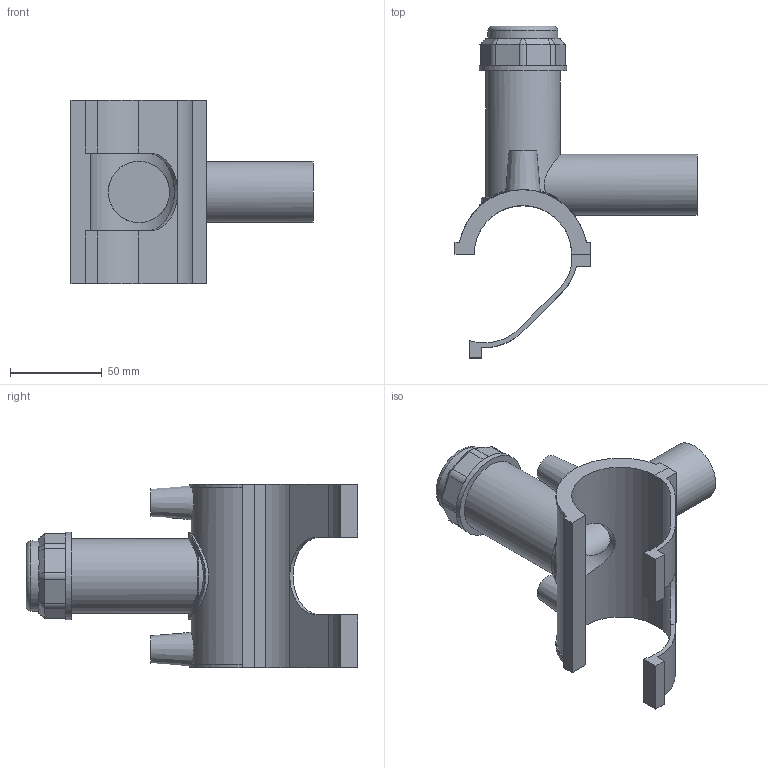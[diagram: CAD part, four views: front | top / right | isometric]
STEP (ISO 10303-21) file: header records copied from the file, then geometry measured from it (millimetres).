
FILE_DESCRIPTION(/* description */ ('PLASSON TAPPING SADDLE 1 1/2''''IPS x 1''''IPS'),/* implementation_level */ '2;1');
FILE_NAME(/* name */ 'C:\Dropbox\KIMPROJECTS-Inventor 2019\99-16-3568-Processing Inch\ASTM ElectroFusion 2021\5963B\5963BB03015010.ipt.stp',/* time_stamp */ '2021-08-30T09:54:55+03:00',/* author */ ('KIM'),/* organization */ (''),/* preprocessor_version */ 'ST-DEVELOPER v17.2',/* originating_system */ 'Autodesk Inventor 2019',/* authorisation */ '');
FILE_SCHEMA (('AUTOMOTIVE_DESIGN { 1 0 10303 214 3 1 1 }'));
Length unit declared in the file: millimetre
Products named in the file (1): 5963BB03015010
Bounding box: 132.08 x 181.08 x 100.08 mm (x, y, z)
Volume: 190873.9 mm3; surface area: 76886.5 mm2
Topology: 2 solids, 2 shells, 111 faces, 290 edges, 191 vertices
Faces by surface type: plane 66, cylinder 32, cone 11, torus 1, bspline 1
Full cylindrical faces by diameter (mm): 4 x2, 10 x2, 26.64 x1, 33.3 x1, 33.453 x1, 38.232 x1, 40.621 x1, 47.79 x1
Entity records: 3952 total; most frequent: CARTESIAN_POINT 1149, ORIENTED_EDGE 580, DIRECTION 577, EDGE_CURVE 290, AXIS2_PLACEMENT_3D 210, VERTEX_POINT 191, LINE 157, VECTOR 157
